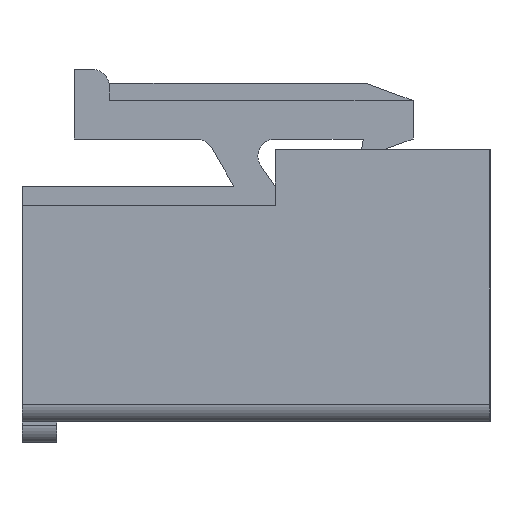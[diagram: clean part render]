
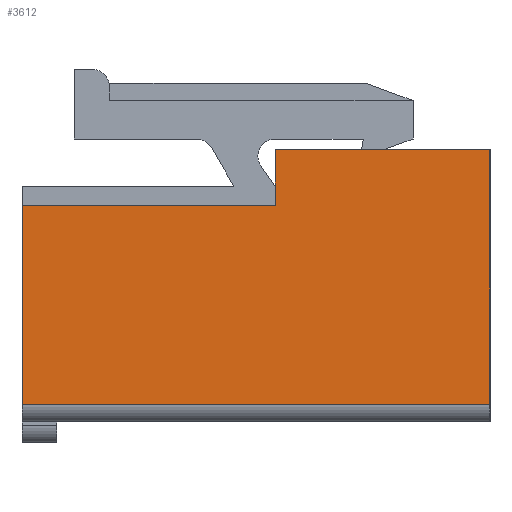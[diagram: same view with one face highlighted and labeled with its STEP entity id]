
A CAD part, left-side view. The second image highlights one B-rep face of the part: STEP entity #3612.
In plain terms, the highlighted planar face has unit normal (-1, 0, 0).
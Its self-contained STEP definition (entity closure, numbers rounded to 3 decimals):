
#185=PLANE('',#3857);
#370=FACE_OUTER_BOUND('',#572,.T.);
#572=EDGE_LOOP('',(#3355,#3356,#3357,#3358,#3359,#3360));
#982=LINE('',#5667,#1451);
#994=LINE('',#5689,#1463);
#1002=LINE('',#5705,#1471);
#1032=LINE('',#5768,#1501);
#1033=LINE('',#5771,#1502);
#1034=LINE('',#5772,#1503);
#1451=VECTOR('',#4650,10.);
#1463=VECTOR('',#4664,10.);
#1471=VECTOR('',#4676,10.);
#1501=VECTOR('',#4740,10.);
#1502=VECTOR('',#4743,10.);
#1503=VECTOR('',#4744,10.);
#1851=VERTEX_POINT('',#5664);
#1852=VERTEX_POINT('',#5666);
#1861=VERTEX_POINT('',#5688);
#1866=VERTEX_POINT('',#5702);
#1867=VERTEX_POINT('',#5704);
#1884=VERTEX_POINT('',#5770);
#2328=EDGE_CURVE('',#1851,#1852,#982,.T.);
#2340=EDGE_CURVE('',#1852,#1861,#994,.T.);
#2348=EDGE_CURVE('',#1867,#1866,#1002,.T.);
#2380=EDGE_CURVE('',#1867,#1851,#1032,.T.);
#2381=EDGE_CURVE('',#1866,#1884,#1033,.T.);
#2382=EDGE_CURVE('',#1861,#1884,#1034,.T.);
#3355=ORIENTED_EDGE('',*,*,#2380,.F.);
#3356=ORIENTED_EDGE('',*,*,#2348,.T.);
#3357=ORIENTED_EDGE('',*,*,#2381,.T.);
#3358=ORIENTED_EDGE('',*,*,#2382,.F.);
#3359=ORIENTED_EDGE('',*,*,#2340,.F.);
#3360=ORIENTED_EDGE('',*,*,#2328,.F.);
#3612=ADVANCED_FACE('',(#370),#185,.T.);
#3857=AXIS2_PLACEMENT_3D('',#5769,#4741,#4742);
#4650=DIRECTION('',(0.,0.,1.));
#4664=DIRECTION('',(0.,-1.,0.));
#4676=DIRECTION('',(0.,0.,1.));
#4740=DIRECTION('',(0.,1.,0.));
#4741=DIRECTION('center_axis',(-1.,0.,0.));
#4742=DIRECTION('ref_axis',(0.,-1.,0.));
#4743=DIRECTION('',(0.,1.,0.));
#4744=DIRECTION('',(0.,0.,1.));
#5664=CARTESIAN_POINT('',(-10.,13.4,0.5));
#5666=CARTESIAN_POINT('',(-10.,13.4,6.2));
#5667=CARTESIAN_POINT('',(-10.,13.4,0.));
#5688=CARTESIAN_POINT('',(-10.,6.15,6.2));
#5689=CARTESIAN_POINT('',(-10.,13.4,6.2));
#5702=CARTESIAN_POINT('',(-10.,0.,7.8));
#5704=CARTESIAN_POINT('',(-10.,0.,0.5));
#5705=CARTESIAN_POINT('',(-10.,0.,0.));
#5768=CARTESIAN_POINT('',(-10.,10.05,0.5));
#5769=CARTESIAN_POINT('Origin',(-10.,13.4,0.));
#5770=CARTESIAN_POINT('',(-10.,6.15,7.8));
#5771=CARTESIAN_POINT('',(-10.,0.,7.8));
#5772=CARTESIAN_POINT('',(-10.,6.15,7.8));
